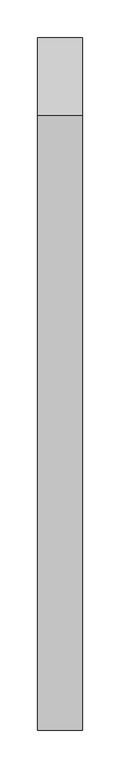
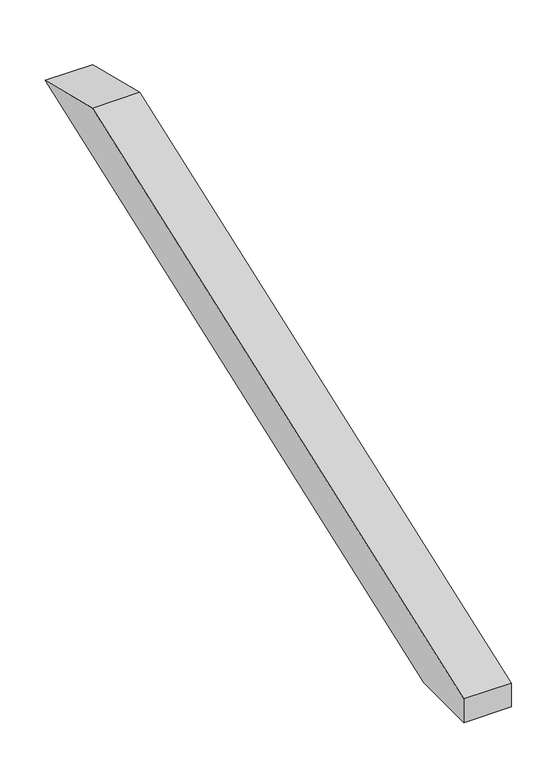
"""IFC4 building model written with IfcOpenShell, lengths in millimetres: proxy geometry, Modelos genéricos 153 : Modelos genéricos 14."""

from ifc_helpers import new_model, si_unit, frame, origin, place, context, project, spatial, polyline, outline, extrude, source, transform, mapped, element, save


def generic_models_e6557282(model_context):
    return source(origin(), model_context, "Body", "SweptSolid", [
        extrude(outline(polyline([(4380.24101, 3463.5158927), (3546.3379485, 3160.0), (3458.6238165, 3160.0), (3458.6238165, 3191.9253332), (4276.1307053, 3489.473507), (4380.24101, 3463.5158927)])), frame((12873.4472467, 0.0, 0.0), z_axis=(1.0, 0.0, 0.0), x_axis=(0.0, 1.0, 0.0)), (0.0, 0.0, 1.0), 60.0),
    ])


if __name__ == "__main__":
    model = new_model("IFC4")
    model_context = context("Model", 3, world=origin())
    ifc_project = project(units=[si_unit("LENGTHUNIT", "METRE", prefix="MILLI")], contexts=[model_context])
    site = spatial("IfcSite", under=ifc_project)
    building = spatial("IfcBuilding", under=site)
    placement = place(None, origin())
    generic_models_shape = generic_models_e6557282(model_context)
    element("IfcBuildingElementProxy", 1, Name="Modelos genéricos 153 : Modelos genéricos 14", ObjectType="Modelos genéricos 153 : Modelos genéricos 14", at=placement, inside=building, context=model_context, shape_type="MappedRepresentation", body=[
        mapped(generic_models_shape, transform((0.0, 0.0, 0.0), x_axis=(1.0, 0.0, 0.0), y_axis=(0.0, 1.0, 0.0), z_axis=(0.0, 0.0, 1.0))),
    ])
    save(model, "model.ifc")
